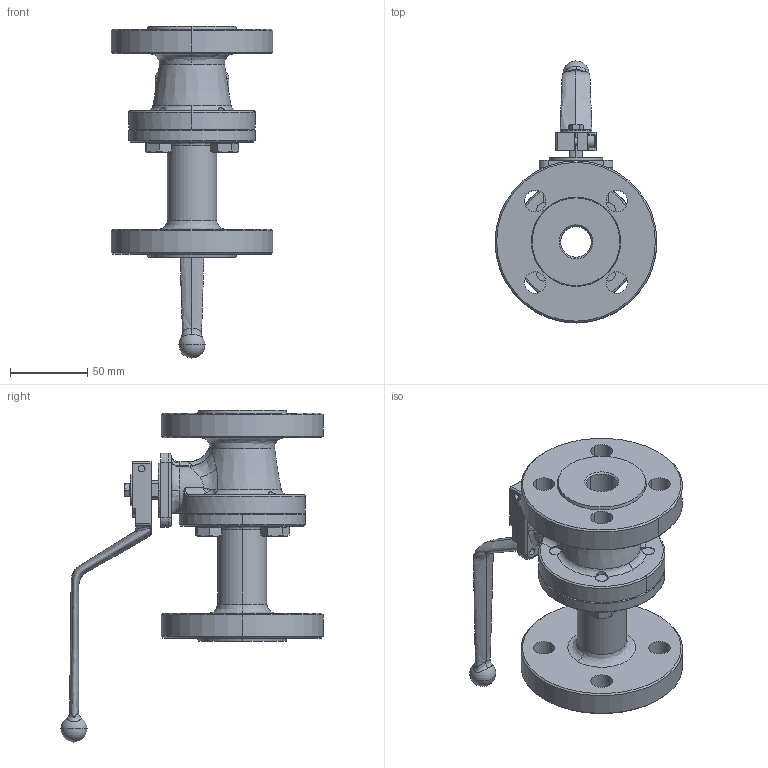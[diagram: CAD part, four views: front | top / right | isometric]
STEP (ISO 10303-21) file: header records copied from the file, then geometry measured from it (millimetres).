
FILE_DESCRIPTION (( 'STEP AP214' ), '1' );
FILE_NAME ('0340020.STEP', '2015-06-15T06:56:13', ( 'pere' ), ( '' ), 'SwSTEP 2.0', 'SolidWorks 2013', '' );
FILE_SCHEMA (( 'AUTOMOTIVE_DESIGN' ));
Length unit declared in the file: millimetre
Products named in the file (9): ISO 4017 - M5 x 12-N_ISO 4017 - M5 x 12-N; 5120_17; ISO 4017 - M10 x 20-N_ISO 4017 - M10 x 20-N; M015; EPI20TJ; 0340020L; 0540020C; 0340020; DIN 912 M5 x 16 --- 16C_DIN 912 M5 x 16 --- 16C
Assembly tree (11 placements, depth 2):
  0340020
    0540020C
    0340020L
    EPI20TJ
    M015
    ISO 4017 - M10 x 20-N_ISO 4017 - M10 x 20-N  x4
    5120_17
    ISO 4017 - M5 x 12-N_ISO 4017 - M5 x 12-N
    DIN 912 M5 x 16 --- 16C_DIN 912 M5 x 16 --- 16C
Bounding box: 105 x 170.2 x 215.5 mm (x, y, z)
Volume: 473115.5 mm3; surface area: 119243.2 mm2
Topology: 11 solids, 11 shells, 492 faces, 1168 edges, 706 vertices
Faces by surface type: cylinder 158, plane 149, cone 99, bspline 60, torus 22, sphere 4
Entity records: 23377 total; most frequent: CARTESIAN_POINT 13612, ORIENTED_EDGE 1938, DIRECTION 1938, EDGE_CURVE 969, AXIS2_PLACEMENT_3D 801, VERTEX_POINT 601, EDGE_LOOP 478, CIRCLE 442
